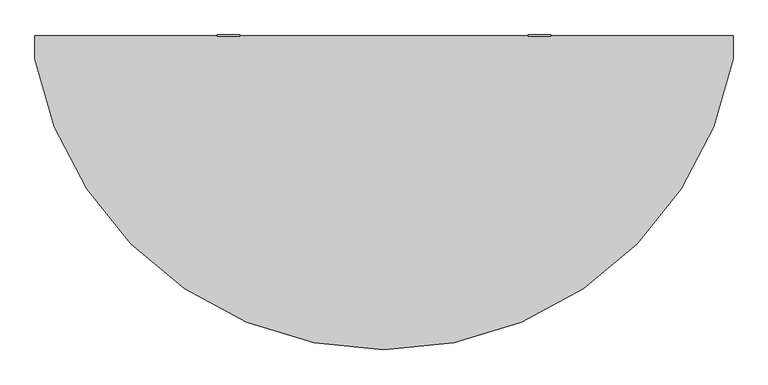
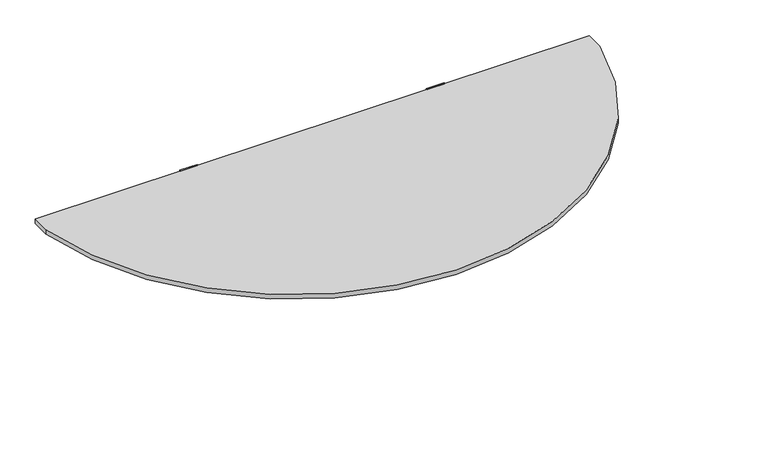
"""IFC4 building model written with IfcOpenShell, lengths in millimetres: furniture geometry, Steelcase Turnstone - Bivi - Table - Half Round : 27D x 60W x 8H."""

from ifc_helpers import new_model, si_unit, point, frame, frame_2d, origin, place, context, project, spatial, polyline, circle_curve, trimmed, segment, composite_curve, outline, extrude, source, transform, mapped, element, save


def furniture_bd7a3b76(model_context):
    return source(origin(), model_context, "Body", "SweptSolid", [
        extrude(outline(composite_curve([segment(polyline([(-1.476894, 724.8391142), (1.7322125, 724.8391142), (1.7322125, 713.6235343)]), True, "CONTINUOUS"), segment(trimmed(circle_curve(frame_2d((-1.5940913, 713.6235343)), 3.3263037), [point((1.7322125, 713.6235343))], [point((-1.5940913, 710.2972306))], False, "CARTESIAN"), True, "CONTINUOUS"), segment(polyline([(-1.5940913, 710.2972306), (-5.2301532, 710.2972306), (-5.2301532, 525.4029227), (-8.2671772, 525.4029227), (-8.2671772, 710.4873802)]), True, "CONTINUOUS"), segment(trimmed(circle_curve(frame_2d((-4.825097, 710.4873802)), 3.4420801), [point((-8.2671772, 710.4873802))], [point((-4.825097, 713.9294603))], False, "CARTESIAN"), True, "CONTINUOUS"), segment(polyline([(-4.825097, 713.9294603), (-1.476894, 713.9294603), (-1.476894, 724.8391142)]), True, "CONTINUOUS")], self_intersect=False)), frame((397.9414676, 0.0, 0.0), z_axis=(1.0, 0.0, 0.0), x_axis=(0.0, 1.0, 0.0)), (0.0, 0.0, 1.0), 48.8114232),
        extrude(outline(composite_curve([segment(polyline([(-1.476894, 724.8391142), (1.7322125, 724.8391142), (1.7322125, 713.6235343)]), True, "CONTINUOUS"), segment(trimmed(circle_curve(frame_2d((-1.5940913, 713.6235343)), 3.3263037), [point((1.7322125, 713.6235343))], [point((-1.5940913, 710.2972306))], False, "CARTESIAN"), True, "CONTINUOUS"), segment(polyline([(-1.5940913, 710.2972306), (-5.2301532, 710.2972306), (-5.2301532, 525.4029227), (-8.2671772, 525.4029227), (-8.2671772, 710.4873802)]), True, "CONTINUOUS"), segment(trimmed(circle_curve(frame_2d((-4.825097, 710.4873802)), 3.4420801), [point((-8.2671772, 710.4873802))], [point((-4.825097, 713.9294603))], False, "CARTESIAN"), True, "CONTINUOUS"), segment(polyline([(-4.825097, 713.9294603), (-1.476894, 713.9294603), (-1.476894, 724.8391142)]), True, "CONTINUOUS")], self_intersect=False)), frame((1077.2471092, 0.0, 0.0), z_axis=(1.0, 0.0, 0.0), x_axis=(0.0, 1.0, 0.0)), (0.0, 0.0, 1.0), 48.8114232),
        extrude(outline(polyline([(1114.0578712, -59.2807929), (1023.3677321, -573.61013), (1004.89217, -570.35239), (1095.0078712, -59.2807929), (1114.0578712, -59.2807929)])), frame((0.0, 0.0, 709.2950048), z_axis=(0.0, 0.0, 1.0), x_axis=(1.0, 0.0, 0.0)), (0.0, 0.0, 1.0), 1.5239952),
        extrude(outline(composite_curve([segment(trimmed(circle_curve(frame_2d((15.6135939, -1.3109026)), 1.3109431), [point((15.6032756, 0.0))], [point((16.924537, -1.3109026))], False, "CARTESIAN"), True, "CONTINUOUS"), segment(polyline([(16.924537, -1.3109026), (16.924537, -2.1335671), (43.4918392, -2.1335671)]), True, "CONTINUOUS"), segment(trimmed(circle_curve(frame_2d((43.4918392, -3.7721042)), 1.6385371), [point((43.4918392, -2.1335671))], [point((45.0241344, -3.1916948))], False, "CARTESIAN"), True, "CONTINUOUS"), segment(polyline([(45.0241344, -3.1916948), (48.4559587, -12.2517958), (48.4559587, -17.2596297), (47.7064314, -18.0207024), (42.2039193, -18.0207024), (42.2039193, -36.353595), (51.5842153, -36.353595), (51.5842153, -12.2226551), (57.97465, -3.2952204), (57.97465, 3.29e-05), (581.1556074, 3.29e-05), (581.1556074, -3.7558822)]), True, "CONTINUOUS"), segment(trimmed(circle_curve(frame_2d((574.2608101, -3.7558822)), 6.8947972), [point((581.1556074, -3.7558822))], [point((578.345275, -9.3106437))], False, "CARTESIAN"), True, "CONTINUOUS"), segment(polyline([(578.345275, -9.3106437), (545.9444307, -33.1352695)]), True, "CONTINUOUS"), segment(trimmed(circle_curve(frame_2d((542.4799787, -28.4237088)), 5.8481819), [point((545.9444307, -33.1352695))], [point((542.4799787, -34.2718907))], False, "CARTESIAN"), True, "CONTINUOUS"), segment(polyline([(542.4799787, -34.2718907), (378.7897133, -34.2718907)]), True, "CONTINUOUS"), segment(trimmed(circle_curve(frame_2d((378.7897133, -41.348028)), 7.0761373), [point((378.7897133, -34.2718907))], [point((376.0842951, -34.8094936))], True, "CARTESIAN"), True, "CONTINUOUS"), segment(polyline([(376.0842951, -34.8094936), (5.9457145, -187.9599661), (-1.5707843, -187.9599661), (-1.5707843, -1.6123729)]), True, "CONTINUOUS"), segment(trimmed(circle_curve(frame_2d((0.0415886, -1.6123729)), 1.6123729), [point((-1.5707843, -1.6123729))], [point((0.0415886, 0.0))], False, "CARTESIAN"), True, "CONTINUOUS"), segment(polyline([(0.0415886, 0.0), (15.6032756, 0.0)]), True, "CONTINUOUS")], self_intersect=False)), frame((1125.7857676, -6.3094393, 710.8189671), z_axis=(-0.9848076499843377, 0.17364876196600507, 0.0), x_axis=(-0.17364876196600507, -0.9848076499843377, 0.0)), (0.0, 0.0, 1.0), 1.524),
        extrude(outline(polyline([(409.9421288, -59.2807929), (428.9921288, -59.2807929), (519.10783, -570.35239), (500.6322679, -573.61013), (409.9421288, -59.2807929)])), frame((0.0, 0.0, 709.2950048), z_axis=(0.0, 0.0, 1.0), x_axis=(1.0, 0.0, 0.0)), (0.0, 0.0, 1.0), 1.5239952),
        extrude(outline(composite_curve([segment(polyline([(-32.48025, 713.20025), (-32.48025, 711.04125), (-55.21325, 711.04125)]), True, "CONTINUOUS"), segment(trimmed(circle_curve(frame_2d((-55.21325, 710.53325)), 0.508), [point((-55.21325, 711.04125))], [point((-55.72125, 710.53325))], True, "CARTESIAN"), True, "CONTINUOUS"), segment(polyline([(-55.72125, 710.53325), (-55.72125, 670.0202219), (-57.88025, 670.0202219), (-57.88025, 710.5954895)]), True, "CONTINUOUS"), segment(trimmed(circle_curve(frame_2d((-55.2754895, 710.5954895)), 2.6047605), [point((-57.88025, 710.5954895))], [point((-55.2754895, 713.20025))], False, "CARTESIAN"), True, "CONTINUOUS"), segment(polyline([(-55.2754895, 713.20025), (-32.48025, 713.20025)]), True, "CONTINUOUS")], self_intersect=False)), frame((76.2, 0.0, 0.0), z_axis=(1.0, 0.0, 0.0), x_axis=(0.0, 1.0, 0.0)), (0.0, 0.0, 1.0), 1371.6),
        extrude(outline(composite_curve([segment(polyline([(-1.3109026, -1.3006249), (-1.3109026, 14.2610621)]), True, "CONTINUOUS"), segment(trimmed(circle_curve(frame_2d((0.3014703, 14.2610621)), 1.6123729), [point((-1.3109026, 14.2610621))], [point((0.3014703, 15.873435))], False, "CARTESIAN"), True, "CONTINUOUS"), segment(polyline([(0.3014703, 15.873435), (186.6490635, 15.873435), (186.6490635, 8.3569362), (33.498591, -361.7816445)]), True, "CONTINUOUS"), segment(trimmed(circle_curve(frame_2d((40.0371254, -364.4870626)), 7.0761373), [point((33.498591, -361.7816445))], [point((32.9609881, -364.4870626))], True, "CARTESIAN"), True, "CONTINUOUS"), segment(polyline([(32.9609881, -364.4870626), (32.9609881, -528.177328)]), True, "CONTINUOUS"), segment(trimmed(circle_curve(frame_2d((27.1128062, -528.177328)), 5.8481819), [point((32.9609881, -528.177328))], [point((31.8243669, -531.64178))], False, "CARTESIAN"), True, "CONTINUOUS"), segment(polyline([(31.8243669, -531.64178), (7.9997411, -564.0426244)]), True, "CONTINUOUS"), segment(trimmed(circle_curve(frame_2d((2.4449796, -559.9581594)), 6.8947972), [point((7.9997411, -564.0426244))], [point((2.4449796, -566.8529567))], False, "CARTESIAN"), True, "CONTINUOUS"), segment(polyline([(2.4449796, -566.8529567), (-1.3109355, -566.8529567), (-1.3109355, -43.6719993), (1.9843178, -43.6719993), (10.9117525, -37.2815646), (35.0426924, -37.2815646), (35.0426924, -27.9012686), (16.7097998, -27.9012686), (16.7097998, -33.4037807), (15.9487271, -34.153308), (10.9408932, -34.153308), (1.8807922, -30.7214837)]), True, "CONTINUOUS"), segment(trimmed(circle_curve(frame_2d((2.4612016, -29.1891886)), 1.6385371), [point((1.8807922, -30.7214837))], [point((0.8226645, -29.1891886))], False, "CARTESIAN"), True, "CONTINUOUS"), segment(polyline([(0.8226645, -29.1891886), (0.8226645, -2.6218863), (0.0, -2.6218863)]), True, "CONTINUOUS"), segment(trimmed(circle_curve(frame_2d((0.0, -1.3109432)), 1.3109431), [point((0.0, -2.6218863))], [point((-1.3109026, -1.3006249))], False, "CARTESIAN"), True, "CONTINUOUS")], self_intersect=False)), frame((400.69787, -20.3947991, 709.5080645), z_axis=(0.9848076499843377, 0.17364876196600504, 0.0), x_axis=(0.0, 0.0, -1.0)), (0.0, 0.0, 1.0), 1.524),
        extrude(outline(composite_curve([segment(polyline([(1524.0, 0.0), (1524.0, -50.8000015)]), True, "CONTINUOUS"), segment(trimmed(circle_curve(frame_2d((762.0, 88.8999985)), 774.7), [point((1524.0, -50.8000015))], [point((0.0, -50.8000015))], False, "CARTESIAN"), True, "CONTINUOUS"), segment(polyline([(0.0, -50.8000015), (0.0, 0.0), (1524.0, 0.0)]), True, "CONTINUOUS")], self_intersect=False)), frame((0.0, 0.0, 710.819), z_axis=(0.0, 0.0, 1.0), x_axis=(1.0, 0.0, 0.0)), (0.0, 0.0, 1.0), 13.081),
    ])


if __name__ == "__main__":
    model = new_model("IFC4")
    model_context = context("Model", 3, world=origin())
    ifc_project = project(units=[si_unit("LENGTHUNIT", "METRE", prefix="MILLI")], contexts=[model_context])
    site = spatial("IfcSite", under=ifc_project)
    building = spatial("IfcBuilding", under=site)
    placement = place(None, origin())
    furniture_shape = furniture_bd7a3b76(model_context)
    element("IfcFurniture", 1, ObjectType="Steelcase Turnstone - Bivi - Table - Half Round : 27D x 60W x 8H", at=placement, inside=building, context=model_context, shape_type="MappedRepresentation", body=[
        mapped(furniture_shape, transform((0.0, 0.0, 0.0), x_axis=(1.0, 0.0, 0.0), y_axis=(0.0, 1.0, 0.0), z_axis=(0.0, 0.0, 1.0))),
    ])
    save(model, "model.ifc")
